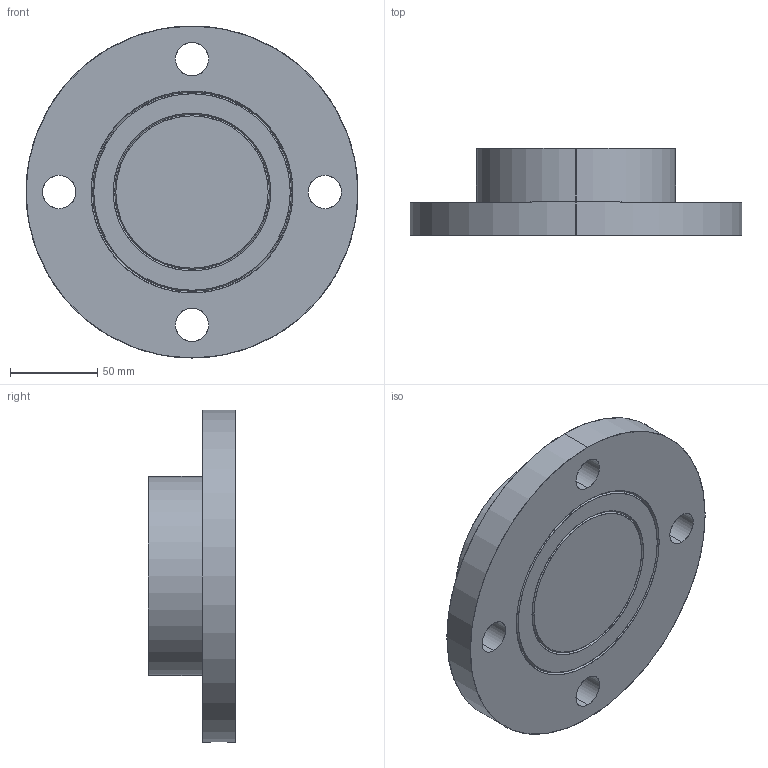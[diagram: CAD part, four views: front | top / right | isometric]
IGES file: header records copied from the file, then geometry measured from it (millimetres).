
Start section: SolidWorks IGES file using analytic representation for surfaces
Global section: file name: C:\Users\kprahl\Desktop\CobraMax Models for Website\CobraMax IGES Files\Base - 3 Inch Flange.IGS; native system: SolidWorks 2019; preprocessor: SolidWorks 2019; author: kprahl; date: 210412.164920; units: inch
Bounding box: 190.5 x 49.96 x 190.5 mm (x, y, z)
Surface area: 82202.1 mm2 (no closed solid volume)
Topology: 0 solids, 0 shells, 25 faces, 848 edges, 848 vertices
Faces by surface type: revolution 20, bspline 5
